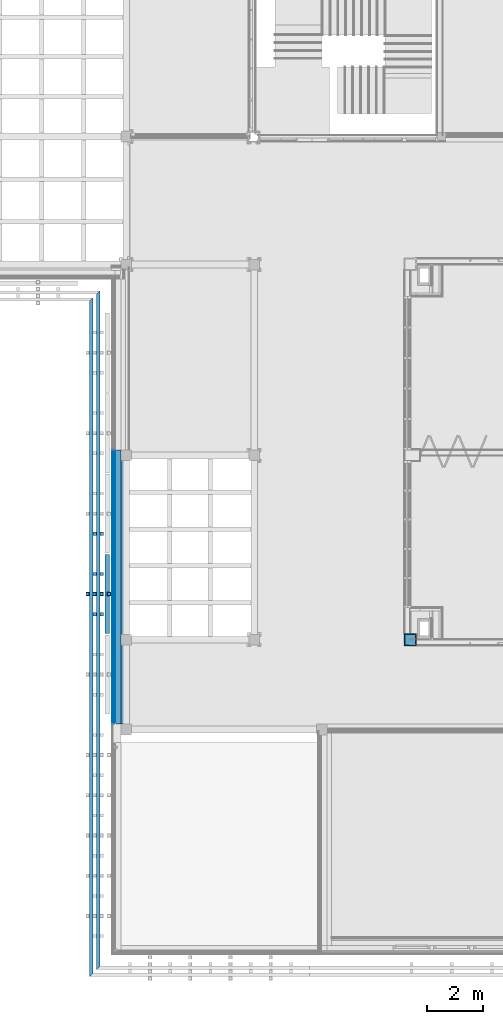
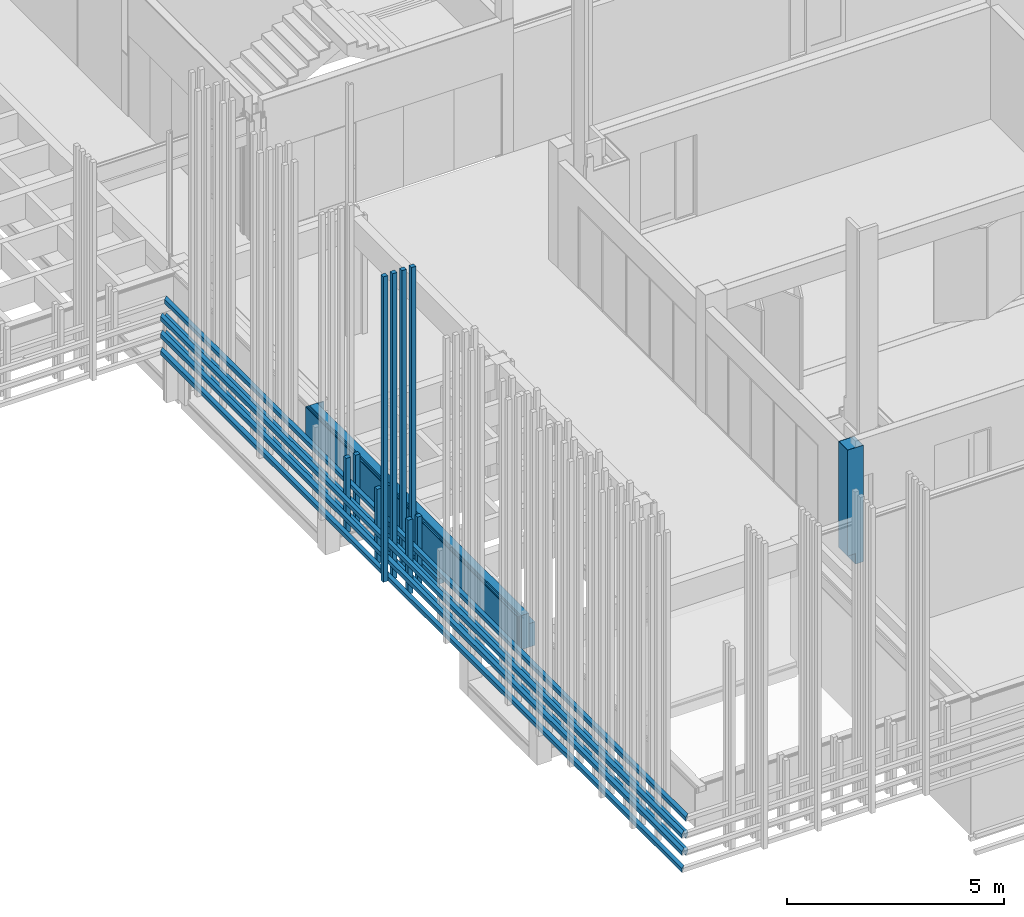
# One storey, part 72 of 139: 8 building element parts, 8 discrete accessories, 2 elements without a shape of their own.
"""IFC2X3 building model written with IfcOpenShell, lengths in millimetres."""

from ifc_helpers import new_model, entity, si_unit, converted_unit, derived_unit, money_unit, direction, frame, origin_with_axes, place, context, subcontext, project, spatial, faceted_brep, material, material_list, type_object, element, aggregate, save


model = new_model("IFC2X3")

# Units and contexts
model_context = context("Model", 3, precision=0.01, world=origin_with_axes(), true_north=direction((0.0, 1.0)))
body_context = subcontext(model_context, "Body", "Model", "MODEL_VIEW")
ifc_project = project(units=[si_unit("LENGTHUNIT", "METRE", prefix="MILLI"), si_unit("AREAUNIT", "SQUARE_METRE"), si_unit("VOLUMEUNIT", "CUBIC_METRE"), converted_unit("PLANEANGLEUNIT", "DEGREE", entity("IfcPlaneAngleMeasure", 0.0174532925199), si_unit("PLANEANGLEUNIT", "RADIAN"), dimensions=[0, 0, 0, 0, 0, 0, 0]), money_unit("EUR"), converted_unit("TIMEUNIT", "Year", entity("IfcTimeMeasure", 31556926.0), si_unit("TIMEUNIT", "SECOND"), dimensions=[0, 0, 1, 0, 0, 0, 0]), si_unit("MASSUNIT", "GRAM", prefix="KILO"), si_unit("THERMODYNAMICTEMPERATUREUNIT", "DEGREE_CELSIUS"), si_unit("LUMINOUSINTENSITYUNIT", "LUMEN"), si_unit("ENERGYUNIT", "JOULE", prefix="MEGA"), derived_unit("THERMALCONDUCTANCEUNIT", [(si_unit("POWERUNIT", "WATT"), 1), (si_unit("LENGTHUNIT", "METRE"), -1), (si_unit("THERMODYNAMICTEMPERATUREUNIT", "KELVIN"), -1)]), derived_unit("SPECIFICHEATCAPACITYUNIT", [(si_unit("ENERGYUNIT", "JOULE"), 1), (si_unit("MASSUNIT", "GRAM", prefix="KILO"), -1), (si_unit("THERMODYNAMICTEMPERATUREUNIT", "KELVIN"), -1)]), derived_unit("MASSDENSITYUNIT", [(si_unit("MASSUNIT", "GRAM", prefix="KILO"), 1), (si_unit("VOLUMEUNIT", "CUBIC_METRE"), -1)])], contexts=[model_context])

# Site, building, storey
site_placement = place(None, origin_with_axes())
site = spatial("IfcSite", under=ifc_project, at=site_placement, Name="Kolde pst 67a", CompositionType="ELEMENT")
building_placement = place(site_placement, origin_with_axes())
building = spatial("IfcBuilding", under=site, at=building_placement, Name="Riigigümnaasium", CompositionType="ELEMENT")
storey_placement = place(building_placement, frame((0.0, 0.0, 4600.0), z_axis=(0.0, 0.0, 1.0), x_axis=(1.0, 0.0, 0.0)))
storey = spatial("IfcBuildingStorey", under=building, at=storey_placement, Name="2. korrus", CompositionType="ELEMENT", Elevation=4600.0)

# Discrete accessories
ifc_material_1 = material(Name="_VÄLISVIIMISTLUS - sõrmjätkatud puitprussid 120x115mm, liitekohad vähemärgatavad, Platowood sõrmjätkatud kuusk või samaväärne; eeltöödeldud tuletõkkevõõbaga, tuletundlikkus B-s1, d0, Woodsafe Exterior WFX™ või samaväärne; kinnitused vastavalt EK osale")
ifc_material_list_1 = material_list([ifc_material_1, ifc_material_1, ifc_material_1, ifc_material_1])
discrete_accessory_type_1 = type_object("IfcDiscreteAccessoryType", Name="120 4-ne vertikaalne 870 x 115")
discrete_accessory_1_placement = place(storey_placement, frame((47687.9900449, 12506.9147775, 2150.0), z_axis=(0.0, 0.0, 1.0), x_axis=(-0.999999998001, -6.32316306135e-05, 0.0)))
element("IfcDiscreteAccessory", 1, at=discrete_accessory_1_placement, inside=storey, type_object=discrete_accessory_type_1, material=ifc_material_list_1, Name="Päikesevarjestus", context=body_context, shape_type="Brep", body=[
    faceted_brep([(47.9927283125, -70.0, 0.0), (47.9927283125, -70.0, 519.999664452), (47.9927283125, -70.0, 669.999664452), (133.0, -70.0, 669.999664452), (133.0, -70.0, 8580.0), (13.0, -70.0, 8580.0), (13.0, -70.0, 0.0), (47.99999995, 45.0, 519.999664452), (47.99999995, 45.0, 0.0), (47.99999995, 45.0, 669.999664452), (133.0, 45.0, 669.999664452), (133.0, 45.0, 8580.0), (13.0, 45.0, 8580.0), (13.0, 45.0, 0.0)], [[[0, 1, 2, 3, 4, 5, 6]], [[7, 1, 0, 8]], [[1, 7, 9, 2]], [[10, 3, 2, 9]], [[4, 3, 10, 11]], [[5, 4, 11, 12]], [[5, 12, 13, 6]], [[8, 0, 6, 13]], [[7, 8, 13, 12, 11, 10, 9]]]),
    faceted_brep([(383.0, 45.0, 0.0), (263.0, 45.0, 0.0), (263.0, 45.0, 8580.0), (383.0, 45.0, 8580.0), (383.0, -70.0, 0.0), (263.0, -70.0, 0.0), (263.0, -70.0, 8580.0), (383.0, -70.0, 8580.0)], [[[0, 1, 2, 3]], [[0, 4, 5, 1]], [[1, 5, 6, 2]], [[3, 2, 6, 7]], [[4, 0, 3, 7]], [[5, 4, 7, 6]]]),
    faceted_brep([(633.0, 45.0, 0.0), (513.0, 45.0, 0.0), (513.0, 45.0, 8580.0), (633.0, 45.0, 8580.0), (633.0, -70.0, 0.0), (513.0, -70.0, 0.0), (513.0, -70.0, 8580.0), (633.0, -70.0, 8580.0)], [[[0, 1, 2, 3]], [[0, 4, 5, 1]], [[1, 5, 6, 2]], [[3, 2, 6, 7]], [[4, 0, 3, 7]], [[5, 4, 7, 6]]]),
    faceted_brep([(883.0, 45.0, 0.0), (763.0, 45.0, 0.0), (763.0, 45.0, 8580.0), (883.0, 45.0, 8580.0), (883.0, -70.0, 0.0), (763.0, -70.0, 0.0), (763.0, -70.0, 8580.0), (883.0, -70.0, 8580.0)], [[[0, 1, 2, 3]], [[0, 4, 5, 1]], [[1, 5, 6, 2]], [[3, 2, 6, 7]], [[4, 0, 3, 7]], [[5, 4, 7, 6]]]),
])
ifc_material_list_2 = material_list([ifc_material_1, ifc_material_1])
discrete_accessory_type_2 = type_object("IfcDiscreteAccessoryType", Name="1+paiksekaitse 4 tk nihkes 2 370 x 355")
discrete_accessory_2_placement = place(storey_placement, frame((47674.9835038, 23674.9999727, 2630.0), z_axis=(0.0, 0.0, 1.0), x_axis=(-0.999999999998, -1.78261654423e-06, 0.0)))
element("IfcDiscreteAccessory", 2, at=discrete_accessory_2_placement, inside=storey, type_object=discrete_accessory_type_2, material=ifc_material_list_2, Name="Päikesevarjestus", context=body_context, shape_type="Brep", body=[
    faceted_brep([(375.0, 24375.000356, 347.001360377), (375.0, 374.999331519, 347.001360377), (495.0, 494.999117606, 357.5), (495.0, 24495.0001909, 357.5), (375.0, 24375.000356, 242.5), (375.0, 374.999331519, 242.5), (495.0, 494.999117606, 242.5), (495.0, 24495.0001909, 242.5)], [[[0, 1, 2, 3]], [[4, 5, 1, 0]], [[5, 6, 2, 1]], [[3, 2, 6, 7]], [[4, 0, 3, 7]], [[7, 6, 5, 4]]]),
    faceted_brep([(625.0, 24625.0000121, 107.001360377), (625.0, 624.998885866, 107.001360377), (745.0, 744.998671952, 117.5), (745.0, 24744.999847, 117.5), (625.0, 24625.0000121, 2.5), (625.0, 624.998885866, 2.5), (745.0, 744.998671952, 2.5), (745.0, 24744.999847, 2.5)], [[[0, 1, 2, 3]], [[4, 5, 1, 0]], [[5, 6, 2, 1]], [[3, 2, 6, 7]], [[4, 0, 3, 7]], [[7, 6, 5, 4]]]),
])
discrete_accessory_3_placement = place(storey_placement, frame((47674.9835038, 23674.9999727, 3110.0), z_axis=(0.0, 0.0, 1.0), x_axis=(-0.999999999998, -1.7826165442e-06, 0.0)))
element("IfcDiscreteAccessory", 3, at=discrete_accessory_3_placement, inside=storey, type_object=discrete_accessory_type_2, material=ifc_material_list_2, Name="Päikesevarjestus", context=body_context, shape_type="Brep", body=[
    faceted_brep([(375.0, 24375.0003609, 347.001360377), (375.0, 374.999331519, 347.001360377), (495.0, 494.999117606, 357.5), (495.0, 24495.0001972, 357.5), (375.0, 24375.0003609, 242.5), (375.0, 374.999331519, 242.5), (495.0, 494.999117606, 242.5), (495.0, 24495.0001972, 242.5)], [[[0, 1, 2, 3]], [[4, 5, 1, 0]], [[5, 6, 2, 1]], [[3, 2, 6, 7]], [[4, 0, 3, 7]], [[7, 6, 5, 4]]]),
    faceted_brep([(625.0, 24625.0000199, 107.001360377), (625.0, 624.998885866, 107.001360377), (745.0, 744.998671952, 117.5), (745.0, 24744.9998562, 117.5), (625.0, 24625.0000199, 2.5), (625.0, 624.998885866, 2.5), (745.0, 744.998671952, 2.5), (745.0, 24744.9998562, 2.5)], [[[0, 1, 2, 3]], [[4, 5, 1, 0]], [[5, 6, 2, 1]], [[3, 2, 6, 7]], [[4, 0, 3, 7]], [[7, 6, 5, 4]]]),
])
discrete_accessory_4_placement = place(storey_placement, frame((47674.9835038, 23674.9999727, 2150.0), z_axis=(0.0, 0.0, 1.0), x_axis=(-0.999999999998, -1.78261654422e-06, 0.0)))
element("IfcDiscreteAccessory", 4, at=discrete_accessory_4_placement, inside=storey, type_object=discrete_accessory_type_2, material=ifc_material_list_2, Name="Päikesevarjestus", context=body_context, shape_type="Brep", body=[
    faceted_brep([(375.0, 24375.0003561, 347.001360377), (375.0, 374.999331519, 347.001360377), (495.0, 494.999117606, 357.5), (495.0, 24495.000191, 357.5), (375.0, 24375.0003561, 242.5), (375.0, 374.999331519, 242.5), (495.0, 494.999117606, 242.5), (495.0, 24495.000191, 242.5)], [[[0, 1, 2, 3]], [[4, 5, 1, 0]], [[5, 6, 2, 1]], [[3, 2, 6, 7]], [[4, 0, 3, 7]], [[7, 6, 5, 4]]]),
    faceted_brep([(625.0, 24625.0000122, 107.001360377), (625.0, 624.998885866, 107.001360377), (745.0, 744.998671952, 117.5), (745.0, 24744.9998471, 117.5), (625.0, 24625.0000122, 2.5), (625.0, 624.998885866, 2.5), (745.0, 744.998671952, 2.5), (745.0, 24744.9998471, 2.5)], [[[0, 1, 2, 3]], [[4, 5, 1, 0]], [[5, 6, 2, 1]], [[3, 2, 6, 7]], [[4, 0, 3, 7]], [[7, 6, 5, 4]]]),
])
discrete_accessory_type_3 = type_object("IfcDiscreteAccessoryType", Name="1+paiksekaitse 3 370 x 115")
for number, where, z_axis, x_axis in (
    (5, (46707.9854612, 14604.9192401, 2150.0), (0.0, 0.0, 1.0), (1.0, 0.0, 0.0)),
    (6, (46707.9854612, 13174.9192401, 2150.0), (0.0, 0.0, 1.0), (1.0, 0.0, 0.0)),
    (7, (46707.9854612, 11744.9192401, 2150.0), (0.0, 0.0, 1.0), (1.0, 0.0, 0.0)),
):
    element("IfcDiscreteAccessory", number, at=place(storey_placement, frame(where, z_axis=z_axis, x_axis=x_axis)), inside=storey, type_object=discrete_accessory_type_3, material=ifc_material_list_2, Name="Päikesevarjestus", context=body_context, shape_type="Brep", body=[
        faceted_brep([(467.0, 117.5, 0.0), (347.0, 117.5, 0.0), (347.0, 117.5, 2090.0), (467.0, 117.5, 2090.0), (467.0, 2.5, 0.0), (347.0, 2.5, 0.0), (347.0, 2.5, 2090.0), (467.0, 2.5, 2090.0)], [[[0, 1, 2, 3]], [[0, 4, 5, 1]], [[1, 5, 6, 2]], [[3, 2, 6, 7]], [[4, 0, 3, 7]], [[5, 4, 7, 6]]]),
        faceted_brep([(717.0, 117.5, 0.0), (597.0, 117.5, 0.0), (597.0, 117.5, 2090.0), (717.0, 117.5, 2090.0), (717.0, 2.5, 0.0), (597.0, 2.5, 0.0), (597.0, 2.5, 2090.0), (717.0, 2.5, 2090.0)], [[[0, 1, 2, 3]], [[0, 4, 5, 1]], [[1, 5, 6, 2]], [[3, 2, 6, 7]], [[4, 0, 3, 7]], [[5, 4, 7, 6]]]),
    ])
ifc_material_2 = material(Name="_METALL - alumiinium")
discrete_accessory_type_4 = type_object("IfcDiscreteAccessoryType", Name="_METALL - alumiinium 155 x 150")
discrete_accessory_5_placement = place(storey_placement, frame((47562.4928905, 11111.7336141, 2744.99966445), z_axis=(0.0, 0.0, 1.0), x_axis=(1.0, 0.0, 0.0)))
element("IfcDiscreteAccessory", 8, at=discrete_accessory_5_placement, inside=storey, type_object=discrete_accessory_type_4, material=ifc_material_2, Name="Kardinvarjestus", context=body_context, shape_type="Brep", body=[
    faceted_brep([(77.5, 0.0, 75.0), (77.5, 2814.9998744, 75.0), (-77.5, 2814.9998744, 75.0), (-77.5, 0.0, 75.0), (77.5, 0.0, -75.0), (77.5, 2814.9998744, -75.0), (-77.5, 2814.9998744, -75.0), (-77.5, 0.0, -75.0)], [[[0, 1, 2, 3]], [[4, 5, 1, 0]], [[2, 1, 5, 6]], [[3, 2, 6, 7]], [[4, 0, 3, 7]], [[7, 6, 5, 4]]]),
])

# Column, building element parts
column_type = type_object("IfcColumnType", Name="_KANDETARIND - raudbetoon C25/30 vastavalt EK osale 420 x 420", PredefinedType="COLUMN")
column_placement = place(storey_placement, frame((58329.9488956, 10899.9619407, -300.0), z_axis=(0.0, 0.0, 1.0), x_axis=(1.0, 0.0, 0.0)))
column = element("IfcColumn", 9, at=column_placement, inside=storey, type_object=column_type, Name="POST", ObjectType="COLUMN")
ifc_material_3 = material(Name="_VIIMISTLUSKIHT - viimistlus vastavalt SA osale")
building_element_part_1_placement = place(column_placement, origin_with_axes())
building_element_part_1 = element("IfcBuildingElementPart", 10, at=building_element_part_1_placement, material=ifc_material_3, Name="_VIIMISTLUSKIHT - viimistlus vastavalt SA osale", context=body_context, shape_type="Brep", body=[
    faceted_brep([(-1.88106810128e-05, -199.999997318, 0.0), (-1.88571860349e-05, -199.999997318, 300.0), (-199.999997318, -199.999997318, 300.0), (-199.999997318, -199.999997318, 3275.0), (199.999997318, -199.999997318, 3275.0), (199.999997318, -199.999997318, 0.0), (-1.88571860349e-05, -210.0, 0.0), (-1.88571860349e-05, -210.0, 300.0), (-210.0, 210.0, 300.0), (-1.88571860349e-05, 210.0, 300.0), (-1.88571860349e-05, 199.999997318, 300.0), (-199.999997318, 199.999997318, 300.0), (-210.0, -210.0, 300.0), (-199.999997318, 199.999997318, 3275.0), (210.0, 210.0, 3275.0), (-210.0, 210.0, 3275.0), (-210.0, -210.0, 3275.0), (210.0, -210.0, 3275.0), (199.999997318, 199.999997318, 3275.0), (199.999997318, 199.999997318, 0.0), (-1.69505511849e-05, 199.999997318, 0.0), (-1.69040461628e-05, 210.0, 0.0), (210.0, 210.0, 0.0), (210.0, -210.0, 0.0)], [[[0, 1, 2, 3, 4, 5]], [[1, 0, 6, 7]], [[8, 9, 10, 11, 2, 1, 7, 12]], [[2, 11, 13, 3]], [[14, 15, 16, 17], [4, 3, 13, 18]], [[18, 19, 5, 4]], [[20, 21, 22, 23, 6, 0, 5, 19]], [[6, 23, 17, 16, 12, 7]], [[21, 9, 8, 15, 14, 22]], [[9, 21, 20, 10]], [[20, 19, 18, 13, 11, 10]], [[8, 12, 16, 15]], [[17, 23, 22, 14]]]),
])
ifc_material_4 = material(Name="_KANDETARIND - raudbetoon C25/30 vastavalt EK osale")
building_element_part_2_placement = place(column_placement, origin_with_axes())
building_element_part_2 = element("IfcBuildingElementPart", 11, at=building_element_part_2_placement, material=ifc_material_4, Name="_KANDETARIND - raudbetoon C25/30 vastavalt EK osale", context=body_context, shape_type="Brep", body=[
    faceted_brep([(-1.69505511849e-05, 200.0, 0.0), (-1.88571860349e-05, 200.0, 300.0), (-200.0, 200.0, 300.0), (-200.0, 200.0, 3275.0), (200.0, 200.0, 3275.0), (200.0, 200.0, 0.0), (-1.88106810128e-05, -200.0, 0.0), (-1.88571860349e-05, -200.0, 300.0), (-200.0, -200.0, 300.0), (-200.0, -200.0, 3275.0), (200.0, -200.0, 3275.0), (200.0, -200.0, 0.0)], [[[0, 1, 2, 3, 4, 5]], [[1, 0, 6, 7]], [[2, 1, 7, 8]], [[2, 8, 9, 3]], [[3, 9, 10, 4]], [[10, 11, 5, 4]], [[6, 0, 5, 11]], [[6, 11, 10, 9, 8, 7]]]),
])
aggregate(column, [building_element_part_1, building_element_part_2])

# Wall, building element parts
wall_type = type_object("IfcWallType", Name="VS-CLT-16/1_soojust 200+laudis 472", PredefinedType="NOTDEFINED")
wall_placement = place(storey_placement, frame((48039.9854607, 17645.6834727, 2659.99889809), z_axis=(0.0, 0.0, 1.0), x_axis=(0.0, -1.0, 0.0)))
wall = element("IfcWall", 12, at=wall_placement, inside=storey, type_object=wall_type, Name="Välissein")
ifc_material_5 = material(Name="_KANDETARIND - CLT ristkihtliimpuit vastavalt EK osale, CLT paigaldusvuugid teibitakse ROTHOBLAAS teibiga")
building_element_part_3_placement = place(wall_placement, origin_with_axes())
building_element_part_3 = element("IfcBuildingElementPart", 13, at=building_element_part_3_placement, material=ifc_material_5, Name="_KANDETARIND - CLT ristkihtliimpuit vastavalt EK osale, CLT paigaldusvuugid teibitakse ROTHOBLAAS teibiga", context=body_context, shape_type="Brep", body=[
    faceted_brep([(29.6155685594, 0.0, 960.001101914), (29.6155685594, 0.0, 660.001101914), (29.6155685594, 160.0, 660.001101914), (29.6155685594, 160.0, 960.001101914), (0.0, 0.0, 960.001101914), (0.0, 0.0, 0.0), (9745.72153208, 0.0, 0.0), (9745.72153208, 0.0, 660.001101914), (9745.72153208, 160.0, 660.001101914), (9745.72153208, 160.0, 0.0), (0.0, 160.0, 0.0), (0.0, 160.0, 960.001101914)], [[[0, 1, 2, 3]], [[1, 0, 4, 5, 6, 7]], [[8, 2, 1, 7]], [[2, 8, 9, 10, 11, 3]], [[0, 3, 11, 4]], [[11, 10, 5, 4]], [[10, 9, 6, 5]], [[8, 7, 6, 9]]]),
])
ifc_material_6 = material(Name="_SOOJUSTUS - mineraalvill, λD<0,032 W/(mK), kuumtsingitud lehtteras termoroovidega, S350GD+Zn275 vastavalt EN10346, ISOVER EXTREME 32 200mm või samaväärne")
building_element_part_4_placement = place(wall_placement, origin_with_axes())
building_element_part_4 = element("IfcBuildingElementPart", 14, at=building_element_part_4_placement, material=ifc_material_6, Name="_SOOJUSTUS - mineraalvill, λD<0,032 W/(mK), kuumtsingitud lehtteras termoroovidega, S350GD+Zn275 vastavalt EN10346, ISOVER EXTREME 32 200mm või samaväärne", context=body_context, shape_type="Brep", body=[
    faceted_brep([(0.0, 0.0, 0.0), (9745.72153208, 0.0, 0.0), (9745.72153208, -200.0, 0.0), (0.0, -200.0, 0.0), (0.0, 0.0, 960.001101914), (9745.72153208, 0.0, 960.001101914), (9745.72153208, -200.0, 960.001101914), (0.0, -200.0, 960.001101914)], [[[0, 1, 2, 3]], [[4, 5, 1, 0]], [[2, 1, 5, 6]], [[3, 2, 6, 7]], [[4, 0, 3, 7]], [[7, 6, 5, 4]]]),
])
ifc_material_7 = material(Name="_TUULETÕKE - tuuletõkkeplaat, soojuserijuhtivus λD<0,031 W/(mK), ISOVER RKL FACADE või samaväärne, liitekohad katta tihendusteibiga ISOVER FacadeTape või samaväärne")
building_element_part_5_placement = place(wall_placement, origin_with_axes())
building_element_part_5 = element("IfcBuildingElementPart", 15, at=building_element_part_5_placement, material=ifc_material_7, Name="_TUULETÕKE - tuuletõkkeplaat, soojuserijuhtivus λD<0,031 W/(mK), ISOVER RKL FACADE või samaväärne, liitekohad katta tihendusteibiga ISOVER FacadeTape või samaväärne", context=body_context, shape_type="Brep", body=[
    faceted_brep([(0.0, -200.0, 0.0), (9745.72153208, -200.0, 0.0), (9745.72153208, -230.0, 0.0), (0.0, -230.0, 0.0), (0.0, -200.0, 960.001101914), (9745.72153208, -200.0, 960.001101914), (9745.72153208, -230.0, 960.001101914), (0.0, -230.0, 960.001101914)], [[[0, 1, 2, 3]], [[4, 5, 1, 0]], [[2, 1, 5, 6]], [[3, 2, 6, 7]], [[4, 0, 3, 7]], [[7, 6, 5, 4]]]),
])
ifc_material_8 = material(Name="_KARKASS - puitroov 32x50mm vertikaalne, immutatud Driconi tulekaitsevahendiga või samaväärne, samm 600mm")
building_element_part_6_placement = place(wall_placement, origin_with_axes())
building_element_part_6 = element("IfcBuildingElementPart", 16, at=building_element_part_6_placement, material=ifc_material_8, Name="_KARKASS - puitroov 32x50mm vertikaalne, immutatud Driconi tulekaitsevahendiga või samaväärne, samm 600mm", context=body_context, shape_type="Brep", body=[
    faceted_brep([(0.0, -230.0, 0.0), (9745.72153208, -230.0, 0.0), (9745.72153208, -262.0, 0.0), (0.0, -262.0, 0.0), (0.0, -230.0, 960.001101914), (9745.72153208, -230.0, 960.001101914), (9745.72153208, -262.0, 960.001101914), (0.0, -262.0, 960.001101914)], [[[0, 1, 2, 3]], [[4, 5, 1, 0]], [[2, 1, 5, 6]], [[3, 2, 6, 7]], [[4, 0, 3, 7]], [[7, 6, 5, 4]]]),
])
ifc_material_9 = material(Name="_KARKASS - puitroov 32x50mm horisontaalne, immutatud Driconi tulekaitsevahendiga või samaväärne, samm 600mm")
building_element_part_7_placement = place(wall_placement, origin_with_axes())
building_element_part_7 = element("IfcBuildingElementPart", 17, at=building_element_part_7_placement, material=ifc_material_9, Name="_KARKASS - puitroov 32x50mm horisontaalne, immutatud Driconi tulekaitsevahendiga või samaväärne, samm 600mm", context=body_context, shape_type="Brep", body=[
    faceted_brep([(0.0, -262.0, 0.0), (9745.72153208, -262.0, 0.0), (9745.72153208, -294.0, 0.0), (0.0, -294.0, 0.0), (0.0, -262.0, 960.001101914), (9745.72153208, -262.0, 960.001101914), (9745.72153208, -294.0, 960.001101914), (0.0, -294.0, 960.001101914)], [[[0, 1, 2, 3]], [[4, 5, 1, 0]], [[2, 1, 5, 6]], [[3, 2, 6, 7]], [[4, 0, 3, 7]], [[7, 6, 5, 4]]]),
])
ifc_material_10 = material(Name="_VÄLISVIIMISTLUS - vertikaalne voodrilaud, Platowood P01 profiil 18x140mm, kuusk; eeltöödeldud tuletõkkega mõlemad küljed, B-s1, d0, Woodsafe Exterior WFX™ või samaväärne")
building_element_part_8_placement = place(wall_placement, origin_with_axes())
building_element_part_8 = element("IfcBuildingElementPart", 18, at=building_element_part_8_placement, material=ifc_material_10, Name="_VÄLISVIIMISTLUS - vertikaalne voodrilaud, Platowood P01 profiil 18x140mm, kuusk; eeltöödeldud tuletõkkega mõlemad küljed, B-s1, d0, Woodsafe Exterior WFX™ või samaväärne", context=body_context, shape_type="Brep", body=[
    faceted_brep([(0.0, -294.0, 0.0), (9745.72153208, -294.0, 0.0), (9745.72153208, -312.0, 0.0), (0.0, -312.0, 0.0), (0.0, -294.0, 960.001101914), (9745.72153208, -294.0, 960.001101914), (9745.72153208, -312.0, 960.001101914), (0.0, -312.0, 960.001101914)], [[[0, 1, 2, 3]], [[4, 5, 1, 0]], [[2, 1, 5, 6]], [[3, 2, 6, 7]], [[4, 0, 3, 7]], [[7, 6, 5, 4]]]),
])
aggregate(wall, [building_element_part_3, building_element_part_4, building_element_part_5, building_element_part_6, building_element_part_7, building_element_part_8])

save(model, "model.ifc")
